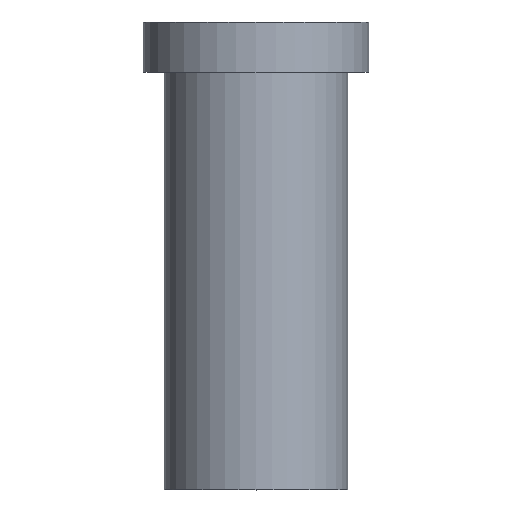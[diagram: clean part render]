
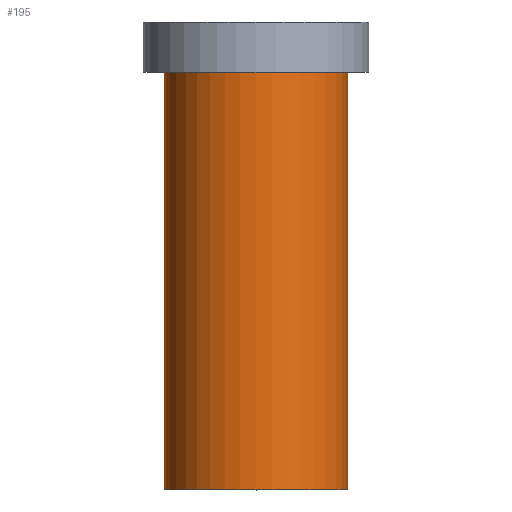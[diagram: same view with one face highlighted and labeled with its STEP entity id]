
A CAD part, top view. The second image highlights one B-rep face of the part: STEP entity #195.
In plain terms, the highlighted cylindrical face has radius 11 mm (diameter 22 mm), a full revolution.
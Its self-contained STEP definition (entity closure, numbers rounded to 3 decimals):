
#32=ORIENTED_EDGE('',*,*,#50,.T.);
#33=ORIENTED_EDGE('',*,*,#49,.F.);
#49=EDGE_CURVE('',#59,#59,#69,.T.);
#50=EDGE_CURVE('',#60,#60,#70,.T.);
#59=VERTEX_POINT('',#280);
#60=VERTEX_POINT('',#283);
#69=CIRCLE('',#213,11.);
#70=CIRCLE('',#215,11.);
#82=EDGE_LOOP('',(#32));
#83=EDGE_LOOP('',(#33));
#102=FACE_BOUND('',#82,.T.);
#103=FACE_BOUND('',#83,.T.);
#117=CYLINDRICAL_SURFACE('',#214,11.);
#195=ADVANCED_FACE('',(#102,#103),#117,.T.);
#213=AXIS2_PLACEMENT_3D('',#279,#241,#242);
#214=AXIS2_PLACEMENT_3D('',#281,#243,#244);
#215=AXIS2_PLACEMENT_3D('',#282,#245,#246);
#241=DIRECTION('',(0.,-1.,0.));
#242=DIRECTION('',(0.,0.,-1.));
#243=DIRECTION('',(0.,-1.,0.));
#244=DIRECTION('',(0.,0.,-1.));
#245=DIRECTION('',(0.,-1.,0.));
#246=DIRECTION('',(0.,0.,-1.));
#279=CARTESIAN_POINT('',(0.,0.,0.));
#280=CARTESIAN_POINT('',(0.,0.,-11.));
#281=CARTESIAN_POINT('',(0.,0.,0.));
#282=CARTESIAN_POINT('',(0.,50.,0.));
#283=CARTESIAN_POINT('',(0.,50.,-11.));
